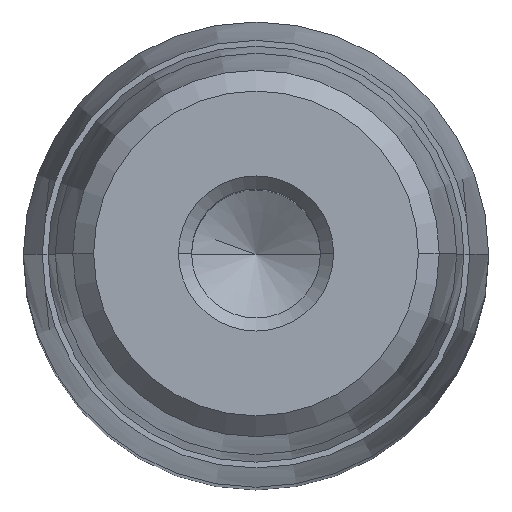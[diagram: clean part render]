
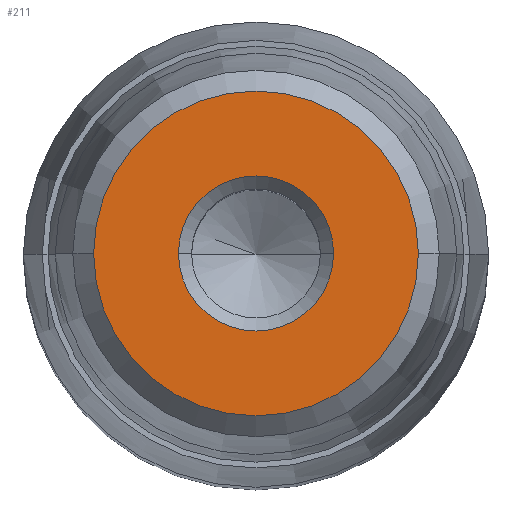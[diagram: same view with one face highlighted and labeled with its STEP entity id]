
A CAD part, top view. The second image highlights one B-rep face of the part: STEP entity #211.
In plain terms, the highlighted planar face has unit normal (0, 0, 1).
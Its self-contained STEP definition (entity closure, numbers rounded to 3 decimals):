
#136=CARTESIAN_POINT('Axis2P3D Location',(0.,0.,35.)) ;
#140=CARTESIAN_POINT('Vertex',(-4.,0.,35.)) ;
#142=CARTESIAN_POINT('Vertex',(4.,0.,35.)) ;
#179=CARTESIAN_POINT('Axis2P3D Location',(0.,4.,35.)) ;
#184=CARTESIAN_POINT('Axis2P3D Location',(0.,0.,35.)) ;
#188=CARTESIAN_POINT('Vertex',(-8.375,0.,35.)) ;
#190=CARTESIAN_POINT('Vertex',(8.375,0.,35.)) ;
#193=CARTESIAN_POINT('Axis2P3D Location',(0.,0.,35.)) ;
#202=CARTESIAN_POINT('Axis2P3D Location',(0.,0.,35.)) ;
#137=DIRECTION('Axis2P3D Direction',(0.,-0.,1.)) ;
#180=DIRECTION('Axis2P3D Direction',(0.,0.,-1.)) ;
#181=DIRECTION('Axis2P3D XDirection',(-1.,0.,0.)) ;
#185=DIRECTION('Axis2P3D Direction',(0.,0.,-1.)) ;
#194=DIRECTION('Axis2P3D Direction',(0.,0.,-1.)) ;
#203=DIRECTION('Axis2P3D Direction',(0.,0.,-1.)) ;
#138=AXIS2_PLACEMENT_3D('Circle Axis2P3D',#136,#137,$) ;
#182=AXIS2_PLACEMENT_3D('Plane Axis2P3D',#179,#180,#181) ;
#186=AXIS2_PLACEMENT_3D('Circle Axis2P3D',#184,#185,$) ;
#195=AXIS2_PLACEMENT_3D('Circle Axis2P3D',#193,#194,$) ;
#204=AXIS2_PLACEMENT_3D('Circle Axis2P3D',#202,#203,$) ;
#199=ORIENTED_EDGE('',*,*,#192,.F.) ;
#200=ORIENTED_EDGE('',*,*,#197,.F.) ;
#208=ORIENTED_EDGE('',*,*,#206,.T.) ;
#209=ORIENTED_EDGE('',*,*,#144,.T.) ;
#210=FACE_BOUND('',#207,.T.) ;
#211=ADVANCED_FACE('722-24x100x123',(#201,#210),#183,.F.) ;
#139=CIRCLE('generated circle',#138,4.) ;
#187=CIRCLE('generated circle',#186,8.375) ;
#196=CIRCLE('generated circle',#195,8.375) ;
#205=CIRCLE('generated circle',#204,4.) ;
#144=EDGE_CURVE('',#141,#143,#139,.F.) ;
#192=EDGE_CURVE('',#189,#191,#187,.T.) ;
#197=EDGE_CURVE('',#191,#189,#196,.T.) ;
#206=EDGE_CURVE('',#143,#141,#205,.T.) ;
#198=EDGE_LOOP('',(#199,#200)) ;
#207=EDGE_LOOP('',(#208,#209)) ;
#201=FACE_OUTER_BOUND('',#198,.T.) ;
#183=PLANE('Plane',#182) ;
#141=VERTEX_POINT('',#140) ;
#143=VERTEX_POINT('',#142) ;
#189=VERTEX_POINT('',#188) ;
#191=VERTEX_POINT('',#190) ;
